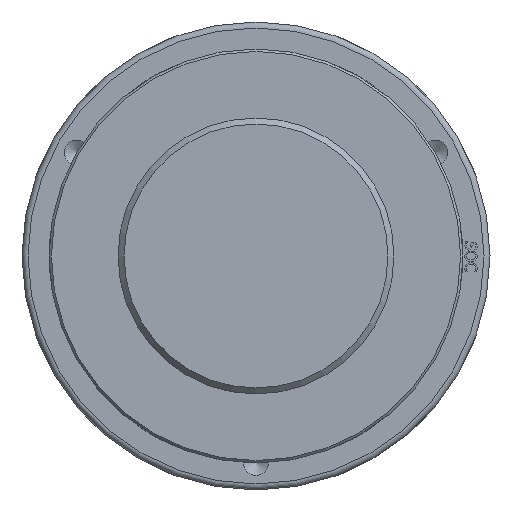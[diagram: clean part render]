
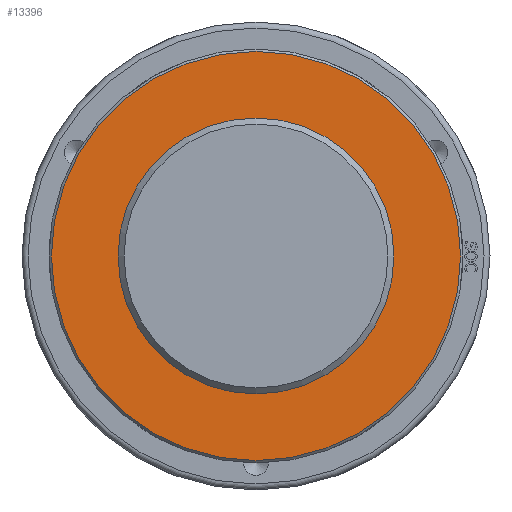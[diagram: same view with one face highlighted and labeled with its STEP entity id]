
A CAD part, front view. The second image highlights one B-rep face of the part: STEP entity #13396.
In plain terms, the highlighted planar face has unit normal (0, -1, 0) as drawn and (0, 1, 0) by its records, which use the part's own axes.
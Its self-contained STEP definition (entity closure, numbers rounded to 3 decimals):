
#90=CIRCLE('',#14071,170.5);
#92=CIRCLE('',#14075,111.753);
#169=FACE_BOUND('',#1707,.T.);
#403=PLANE('',#14074);
#908=FACE_OUTER_BOUND('',#1706,.T.);
#1706=EDGE_LOOP('',(#10574));
#1707=EDGE_LOOP('',(#10575));
#5930=VERTEX_POINT('',#20528);
#5944=VERTEX_POINT('',#20768);
#7601=EDGE_CURVE('',#5930,#5930,#90,.T.);
#7615=EDGE_CURVE('',#5944,#5944,#92,.T.);
#10574=ORIENTED_EDGE('',*,*,#7601,.F.);
#10575=ORIENTED_EDGE('',*,*,#7615,.T.);
#13396=ADVANCED_FACE('',(#908,#169),#403,.T.);
#14071=AXIS2_PLACEMENT_3D('',#20529,#15280,#15281);
#14074=AXIS2_PLACEMENT_3D('',#20767,#15286,#15287);
#14075=AXIS2_PLACEMENT_3D('',#20769,#15288,#15289);
#15280=DIRECTION('center_axis',(0.,-1.,0.));
#15281=DIRECTION('ref_axis',(1.,0.,0.));
#15286=DIRECTION('center_axis',(0.,1.,0.));
#15287=DIRECTION('ref_axis',(0.,0.,1.));
#15288=DIRECTION('center_axis',(0.,-1.,0.));
#15289=DIRECTION('ref_axis',(1.,0.,0.));
#20528=CARTESIAN_POINT('',(-170.5,115.,0.));
#20529=CARTESIAN_POINT('Origin',(0.,115.,0.));
#20767=CARTESIAN_POINT('Origin',(0.,115.,0.));
#20768=CARTESIAN_POINT('',(-111.753,115.,0.));
#20769=CARTESIAN_POINT('Origin',(0.,115.,0.));
